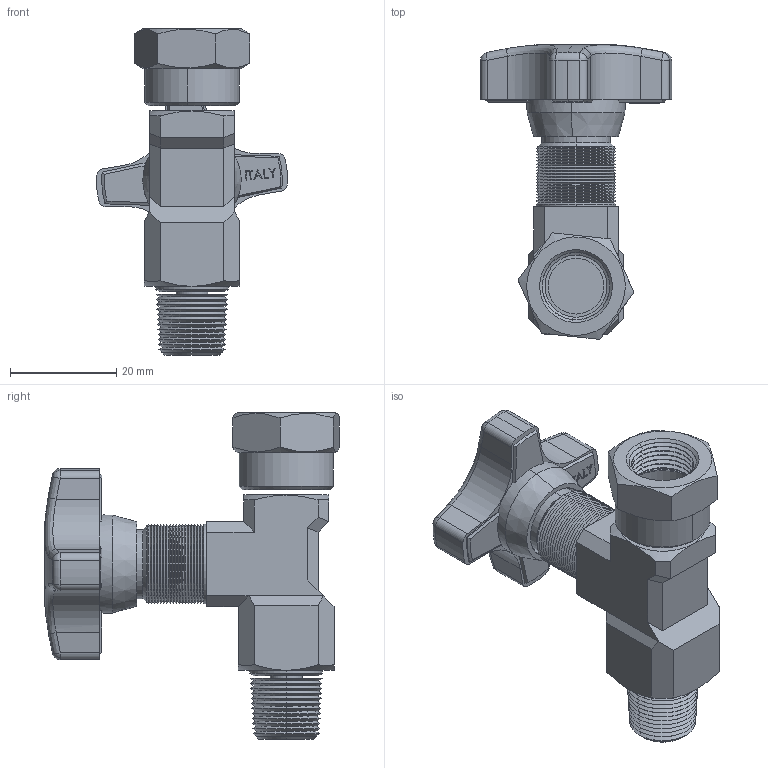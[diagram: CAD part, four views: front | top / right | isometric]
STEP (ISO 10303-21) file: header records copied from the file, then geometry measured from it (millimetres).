
FILE_DESCRIPTION (( 'STEP AP214' ), '1' );
FILE_NAME ('2290-14.STEP', '2015-05-15T09:21:25', ( '' ), ( '' ), 'SwSTEP 2.0', 'SolidWorks 2014', '' );
FILE_SCHEMA (( 'AUTOMOTIVE_DESIGN' ));
Length unit declared in the file: millimetre
Products named in the file (1): 2290-14
Bounding box: 35.97 x 55.53 x 61.5 mm (x, y, z)
Surface area: 9762.8 mm2 (no closed solid volume)
Topology: 0 solids, 13 shells, 548 faces, 1426 edges, 881 vertices
Faces by surface type: plane 223, cone 201, cylinder 65, bspline 42, sphere 10, torus 7
Entity records: 25104 total; most frequent: CARTESIAN_POINT 5910, DIRECTION 2709, ORIENTED_EDGE 2652, EDGE_CURVE 1426, AXIS2_PLACEMENT_3D 920, VERTEX_POINT 881, VECTOR 869, LINE 869
